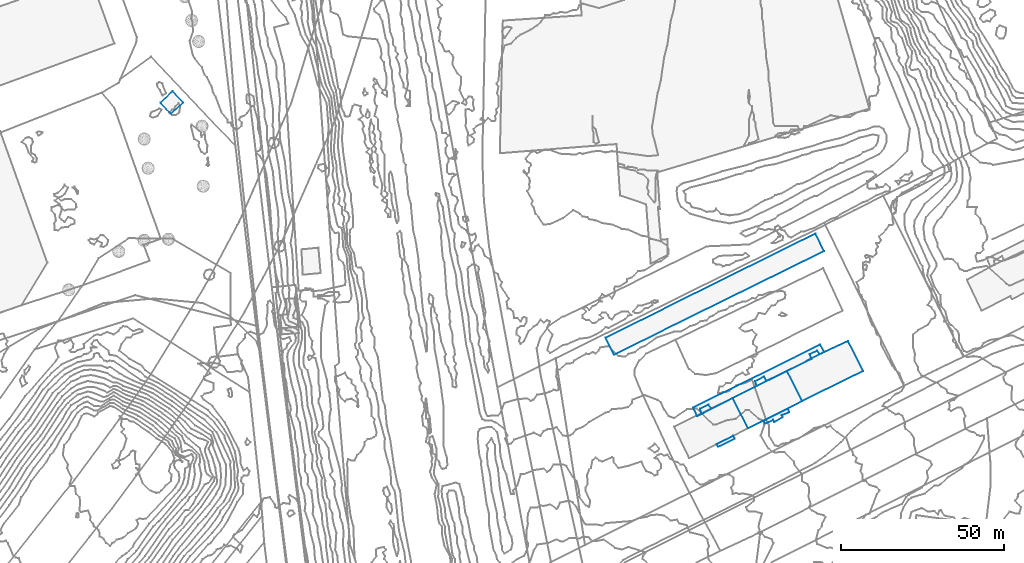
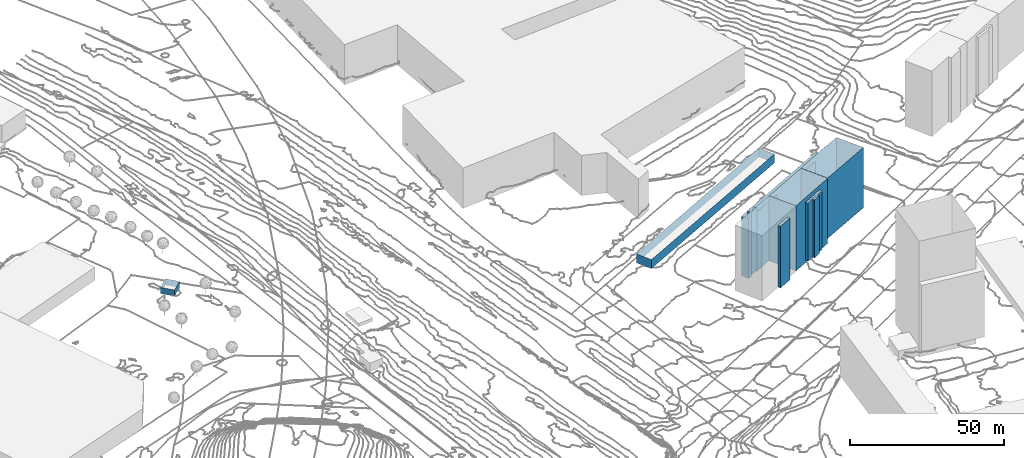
# Not in any storey, part 57 of 419: 8 walls.
"""IFC2X3 model written with IfcOpenShell, lengths in metres."""

from ifc_helpers import new_model, si_unit, frame, origin_with_axes, place, context, subcontext, project, faceted_brep, element, save


model = new_model("IFC2X3")

# Units and contexts
model_context = context("Model", 3, precision=1e-05, world=origin_with_axes())
body_context = subcontext(model_context, "Body", "Model", "MODEL_VIEW")
ifc_project = project(units=[si_unit("AREAUNIT", "SQUARE_METRE"), si_unit("LENGTHUNIT", "METRE")], contexts=[model_context])

# Walls
wall_1_placement = place(None, frame((290.7920204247, 821.6976909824, 30.277000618), z_axis=(0.0, 0.0, 1.0), x_axis=(1.0, 0.0, 0.0)))
element("IfcWall", 1, at=wall_1_placement, Name="Mur 0", context=body_context, shape_type="Brep", body=[
    faceted_brep([(0.0, 0.0, 23.922999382), (11.4, 5.7999999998, 23.922999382), (0.0, 0.0, 0.0), (11.4, 5.7999999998, 0.0), (4.7000000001, -9.2000000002, 23.922999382), (4.7000000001, -9.2000000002, 0.0), (23.4, 0.0, 23.922999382), (23.4, 0.0, 0.0), (18.7000000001, 9.2000000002, 23.922999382), (18.7000000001, 9.2000000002, 0.0)], [[[0, 1, 2]], [[2, 1, 3]], [[4, 0, 5]], [[5, 0, 2]], [[6, 4, 7]], [[7, 4, 5]], [[1, 8, 3]], [[3, 8, 9]], [[8, 6, 9]], [[9, 6, 7]]]),
])
wall_2_placement = place(None, frame((269.1920204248, 799.2976909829, 28.2199993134), z_axis=(0.0, 0.0, 1.0), x_axis=(1.0, 0.0, 0.0)))
element("IfcWall", 2, at=wall_2_placement, Name="Mur 0", context=body_context, shape_type="Brep", body=[
    faceted_brep([(0.5, -0.9000000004, 24.4800006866), (0.0, 0.0, 24.4800006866), (0.5, -0.9000000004, 0.0), (0.0, 0.0, 0.0), (5.5, 1.5999999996, 24.4800006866), (5.5, 1.5999999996, 0.0), (5.1, 2.5, 24.4800006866), (5.1, 2.5, 0.0)], [[[0, 1, 2]], [[2, 1, 3]], [[4, 0, 5]], [[5, 0, 2]], [[1, 6, 3]], [[3, 6, 7]], [[6, 4, 7]], [[7, 4, 5]]]),
])
wall_3_placement = place(None, frame((98.4920204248, 904.0976909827, 21.8522004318), z_axis=(0.0, 0.0, 1.0), x_axis=(1.0, 0.0, 0.0)))
element("IfcWall", 3, at=wall_3_placement, Name="Mur 0", context=body_context, shape_type="Brep", body=[
    faceted_brep([(0.0, 0.0, 2.4477995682), (3.7999999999, 3.5, 2.4477995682), (0.0, 0.0, 0.0), (3.7999999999, 3.5, 0.0), (3.2, -3.5, 2.4477995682), (3.2, -3.5, 0.0), (7.0, -0.1000000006, 2.4477995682), (7.0, -0.1000000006, 0.0)], [[[0, 1, 2]], [[2, 1, 3]], [[4, 0, 5]], [[5, 0, 2]], [[1, 6, 3]], [[3, 6, 7]], [[6, 4, 7]], [[7, 4, 5]]]),
])
wall_4_placement = place(None, frame((274.0920204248, 813.3976909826, 28.3087998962), z_axis=(0.0, 0.0, 1.0), x_axis=(1.0, 0.0, 0.0)))
element("IfcWall", 4, at=wall_4_placement, Name="Mur 0", context=body_context, shape_type="Brep", body=[
    faceted_brep([(0.0, 0.0, 25.7912001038), (16.7, 8.2999999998, 25.7912001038), (0.0, 0.0, 0.0), (16.7, 8.2999999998, 0.0), (4.7, -9.2999999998, 25.7912001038), (4.7, -9.2999999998, 0.0), (21.4, -0.9000000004, 25.7912001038), (21.4, -0.9000000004, 0.0)], [[[0, 1, 2]], [[2, 1, 3]], [[4, 0, 5]], [[5, 0, 2]], [[1, 6, 3]], [[3, 6, 7]], [[6, 4, 7]], [[7, 4, 5]]]),
])
wall_5_placement = place(None, frame((235.0920204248, 831.8976909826, 29.9789994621), z_axis=(0.0, 0.0, 1.0), x_axis=(1.0, 0.0, 0.0)))
element("IfcWall", 5, at=wall_5_placement, Name="Mur 0", context=body_context, shape_type="Brep", body=[
    faceted_brep([(67.0, 26.5999999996, 3.5210005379), (2.6, -5.2000000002, 3.5210005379), (67.0, 26.5999999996, 0.0), (2.6, -5.2000000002, 0.0), (64.4, 32.0, 3.5210005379), (64.4, 32.0, 0.0), (0.0, 0.0, 3.5210005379), (0.0, 0.0, 0.0)], [[[0, 1, 2]], [[2, 1, 3]], [[4, 0, 5]], [[5, 0, 2]], [[1, 6, 3]], [[3, 6, 7]], [[6, 4, 7]], [[7, 4, 5]]]),
])
wall_6_placement = place(None, frame((264.0920204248, 810.0976909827, 28.9349998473), z_axis=(0.0, 0.0, 1.0), x_axis=(1.0, 0.0, 0.0)))
element("IfcWall", 6, at=wall_6_placement, Name="Mur 0", context=body_context, shape_type="Brep", body=[
    faceted_brep([(2.6, 1.2999999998, 24.7650001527), (3.5, 0.0, 24.7650001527), (2.6, 1.2999999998, 0.0), (3.5, 0.0, 0.0), (0.0, 0.0, 24.7650001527), (0.0, 0.0, 0.0), (0.5, -1.6000000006, 24.7650001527), (0.5, -1.6000000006, 0.0)], [[[0, 1, 2]], [[2, 1, 3]], [[4, 0, 5]], [[5, 0, 2]], [[1, 6, 3]], [[3, 6, 7]], [[6, 4, 7]], [[7, 4, 5]]]),
])
wall_7_placement = place(None, frame((261.9920204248, 810.4976909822, 28.4848001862), z_axis=(0.0, 0.0, 1.0), x_axis=(1.0, 0.0, 0.0)))
element("IfcWall", 7, at=wall_7_placement, Name="Mur 0", context=body_context, shape_type="Brep", body=[
    faceted_brep([(39.0, 19.3000000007, 23.5151998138), (40.2, 17.0, 23.5151998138), (39.0, 19.3000000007, 0.0), (40.2, 17.0, 0.0), (0.0, 0.0, 23.5151998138), (0.0, 0.0, 0.0), (1.2, -2.6999999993, 23.5151998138), (1.2, -2.6999999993, 0.0), (2.6, -2.0, 23.5151998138), (2.6, -2.0, 0.0), (2.1, -0.3999999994, 23.5151998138), (2.1, -0.3999999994, 0.0), (4.7, 0.9000000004, 23.5151998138), (4.7, 0.9000000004, 0.0), (5.6, -0.3999999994, 23.5151998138), (5.6, -0.3999999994, 0.0), (19.5, 6.6000000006, 23.5151998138), (19.5, 6.6000000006, 0.0), (19.0, 8.0, 23.5151998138), (19.0, 8.0, 0.0), (21.7999999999, 9.5, 23.5151998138), (21.7999999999, 9.5, 0.0), (22.4, 8.1000000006, 23.5151998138), (22.4, 8.1000000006, 0.0), (36.2999999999, 14.9000000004, 23.5151998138), (36.2999999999, 14.9000000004, 0.0), (35.7999999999, 16.3000000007, 23.5151998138), (35.7999999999, 16.3000000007, 0.0), (38.1, 17.5, 23.5151998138), (38.1, 17.5, 0.0), (38.7999999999, 16.3000000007, 23.5151998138), (38.7999999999, 16.3000000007, 0.0)], [[[0, 1, 2]], [[2, 1, 3]], [[4, 0, 5]], [[5, 0, 2]], [[6, 4, 7]], [[7, 4, 5]], [[8, 6, 9]], [[9, 6, 7]], [[10, 8, 11]], [[11, 8, 9]], [[12, 10, 13]], [[13, 10, 11]], [[14, 12, 15]], [[15, 12, 13]], [[16, 14, 17]], [[17, 14, 15]], [[18, 16, 19]], [[19, 16, 17]], [[20, 18, 21]], [[21, 18, 19]], [[22, 20, 23]], [[23, 20, 21]], [[24, 22, 25]], [[25, 22, 23]], [[26, 24, 27]], [[27, 24, 25]], [[28, 26, 29]], [[29, 26, 27]], [[1, 30, 3]], [[3, 30, 31]], [[30, 28, 31]], [[31, 28, 29]]]),
])
wall_8_placement = place(None, frame((283.6920204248, 806.3976909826, 29.4510004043), z_axis=(0.0, 0.0, 1.0), x_axis=(1.0, 0.0, 0.0)))
element("IfcWall", 8, at=wall_8_placement, Name="Mur 0", context=body_context, shape_type="Brep", body=[
    faceted_brep([(0.0, 0.0, 23.0489995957), (7.4, 3.7999999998, 23.0489995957), (0.0, 0.0, 0.0), (7.4, 3.7999999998, 0.0), (0.4, -0.9000000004, 23.0489995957), (0.4, -0.9000000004, 0.0), (2.9, 0.2999999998, 23.0489995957), (2.9, 0.2999999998, 0.0), (3.2000000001, -0.4000000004, 23.0489995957), (3.2000000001, -0.4000000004, 0.0), (5.8, 1.0999999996, 23.0489995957), (5.8, 1.0999999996, 0.0), (5.5, 1.7000000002, 23.0489995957), (5.5, 1.7000000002, 0.0), (7.7000000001, 2.5999999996, 23.0489995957), (7.7000000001, 2.5999999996, 0.0)], [[[0, 1, 2]], [[2, 1, 3]], [[4, 0, 5]], [[5, 0, 2]], [[6, 4, 7]], [[7, 4, 5]], [[8, 6, 9]], [[9, 6, 7]], [[10, 8, 11]], [[11, 8, 9]], [[12, 10, 13]], [[13, 10, 11]], [[1, 14, 3]], [[3, 14, 15]], [[14, 12, 15]], [[15, 12, 13]]]),
])

save(model, "model.ifc")
